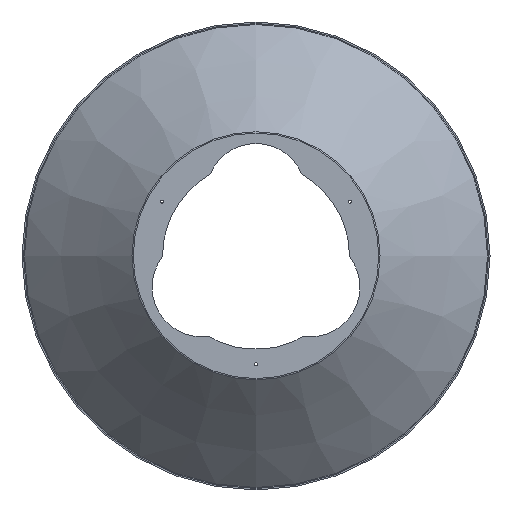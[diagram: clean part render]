
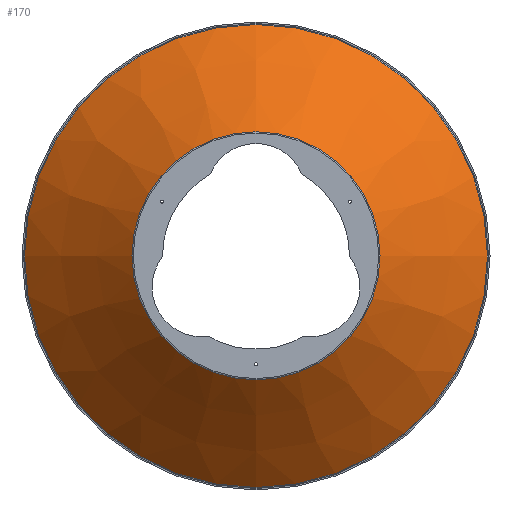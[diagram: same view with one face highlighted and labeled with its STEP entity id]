
A CAD part, top view. The second image highlights one B-rep face of the part: STEP entity #170.
In plain terms, the highlighted conical face has half-angle 46.005 degrees and reference radius 237.775 mm.
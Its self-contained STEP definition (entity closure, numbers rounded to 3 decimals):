
#170=ADVANCED_FACE('',(#350,#352),#354,.T.);
#350=FACE_OUTER_BOUND('',#351,.T.);
#351=EDGE_LOOP('',(#467));
#352=FACE_OUTER_BOUND('',#353,.T.);
#353=EDGE_LOOP('',(#468));
#354=CONICAL_SURFACE('',#355,237.775,0.803);
#355=AXIS2_PLACEMENT_3D('',#356,#357,#358);
#356=CARTESIAN_POINT('',(0.,0.,-70.07));
#357=DIRECTION('',(0.,0.,-1.));
#358=DIRECTION('',(-1.,0.,0.));
#467=ORIENTED_EDGE('',*,*,#509,.T.);
#468=ORIENTED_EDGE('',*,*,#501,.F.);
#501=EDGE_CURVE('',#555,#555,#556,.T.);
#509=EDGE_CURVE('',#565,#565,#566,.T.);
#555=VERTEX_POINT('',#677);
#556=CIRCLE('',#678,165.929);
#565=VERTEX_POINT('',#705);
#566=CIRCLE('',#706,309.621);
#677=CARTESIAN_POINT('',(165.929,0.,-0.701));
#678=AXIS2_PLACEMENT_3D('',#679,#680,#681);
#679=CARTESIAN_POINT('',(0.,0.,-0.701));
#680=DIRECTION('',(0.,0.,1.));
#681=DIRECTION('',(1.,0.,0.));
#705=CARTESIAN_POINT('',(309.621,0.,-139.439));
#706=AXIS2_PLACEMENT_3D('',#707,#708,#709);
#707=CARTESIAN_POINT('',(0.,0.,-139.439));
#708=DIRECTION('',(0.,0.,1.));
#709=DIRECTION('',(1.,0.,0.));
